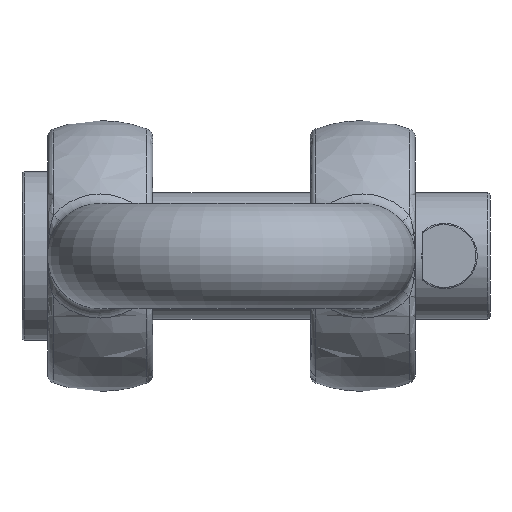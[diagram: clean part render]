
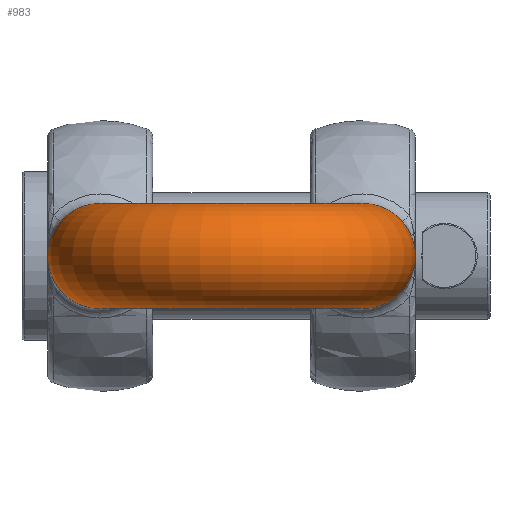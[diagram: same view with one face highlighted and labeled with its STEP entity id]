
A CAD part, front view. The second image highlights one B-rep face of the part: STEP entity #983.
In plain terms, the highlighted toroidal (fillet/blend) face has major radius 112.5 mm and minor radius 45 mm.
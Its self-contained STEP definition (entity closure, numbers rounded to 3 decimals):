
#64=TOROIDAL_SURFACE('',#1149,112.5,45.);
#183=FACE_OUTER_BOUND('',#247,.T.);
#247=EDGE_LOOP('',(#822,#823,#824,#825,#826,#827));
#356=CIRCLE('',#1147,45.);
#357=CIRCLE('',#1148,45.);
#358=CIRCLE('',#1150,67.5);
#359=CIRCLE('',#1151,45.);
#360=CIRCLE('',#1152,45.);
#446=VERTEX_POINT('',#2667);
#447=VERTEX_POINT('',#2669);
#448=VERTEX_POINT('',#2673);
#449=VERTEX_POINT('',#2675);
#581=EDGE_CURVE('',#446,#447,#356,.T.);
#582=EDGE_CURVE('',#447,#446,#357,.T.);
#583=EDGE_CURVE('',#447,#448,#358,.T.);
#584=EDGE_CURVE('',#448,#449,#359,.T.);
#585=EDGE_CURVE('',#449,#448,#360,.T.);
#822=ORIENTED_EDGE('',*,*,#582,.F.);
#823=ORIENTED_EDGE('',*,*,#583,.T.);
#824=ORIENTED_EDGE('',*,*,#584,.T.);
#825=ORIENTED_EDGE('',*,*,#585,.T.);
#826=ORIENTED_EDGE('',*,*,#583,.F.);
#827=ORIENTED_EDGE('',*,*,#581,.F.);
#983=ADVANCED_FACE('',(#183),#64,.T.);
#1147=AXIS2_PLACEMENT_3D('',#2670,#1354,#1355);
#1148=AXIS2_PLACEMENT_3D('',#2671,#1356,#1357);
#1149=AXIS2_PLACEMENT_3D('',#2672,#1358,#1359);
#1150=AXIS2_PLACEMENT_3D('',#2674,#1360,#1361);
#1151=AXIS2_PLACEMENT_3D('',#2676,#1362,#1363);
#1152=AXIS2_PLACEMENT_3D('',#2677,#1364,#1365);
#1354=DIRECTION('center_axis',(0.,1.,0.));
#1355=DIRECTION('ref_axis',(1.,0.,0.));
#1356=DIRECTION('center_axis',(0.,1.,0.));
#1357=DIRECTION('ref_axis',(1.,0.,0.));
#1358=DIRECTION('center_axis',(0.,0.,-1.));
#1359=DIRECTION('ref_axis',(-1.,0.,0.));
#1360=DIRECTION('center_axis',(0.,0.,1.));
#1361=DIRECTION('ref_axis',(-1.,0.,0.));
#1362=DIRECTION('center_axis',(0.,-1.,0.));
#1363=DIRECTION('ref_axis',(-1.,0.,0.));
#1364=DIRECTION('center_axis',(0.,-1.,0.));
#1365=DIRECTION('ref_axis',(-1.,0.,0.));
#2667=CARTESIAN_POINT('',(-157.5,157.5,0.));
#2669=CARTESIAN_POINT('',(-67.5,157.5,0.));
#2670=CARTESIAN_POINT('Origin',(-112.5,157.5,0.));
#2671=CARTESIAN_POINT('Origin',(-112.5,157.5,0.));
#2672=CARTESIAN_POINT('Origin',(0.,157.5,0.));
#2673=CARTESIAN_POINT('',(67.5,157.5,0.));
#2674=CARTESIAN_POINT('Origin',(0.,157.5,0.));
#2675=CARTESIAN_POINT('',(157.5,157.5,0.));
#2676=CARTESIAN_POINT('Origin',(112.5,157.5,0.));
#2677=CARTESIAN_POINT('Origin',(112.5,157.5,0.));
